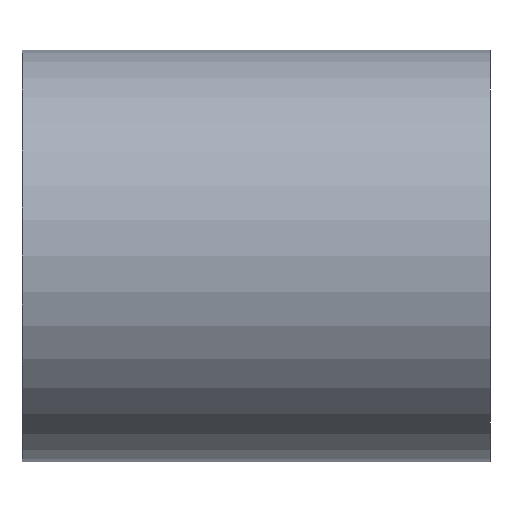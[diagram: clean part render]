
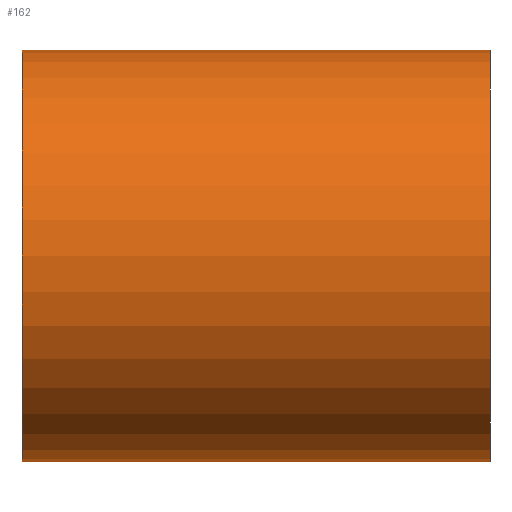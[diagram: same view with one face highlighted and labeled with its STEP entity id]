
A CAD part, front view. The second image highlights one B-rep face of the part: STEP entity #162.
In plain terms, the highlighted cylindrical face has radius 330 mm (diameter 660 mm), a partial arc.
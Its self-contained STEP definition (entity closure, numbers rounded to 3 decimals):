
#162=ADVANCED_FACE('',(#326),#327,.T.);
#326=FACE_OUTER_BOUND('',#509,.T.);
#327=CYLINDRICAL_SURFACE('',#510,330.0);
#509=EDGE_LOOP('',(#927,#928,#929,#930));
#510=AXIS2_PLACEMENT_3D('',#931,#932,#933);
#927=ORIENTED_EDGE('',*,*,#999,.T.);
#928=ORIENTED_EDGE('',*,*,#1173,.F.);
#929=ORIENTED_EDGE('',*,*,#1001,.T.);
#930=ORIENTED_EDGE('',*,*,#1174,.F.);
#931=CARTESIAN_POINT('',(0.0,0.0,0.0));
#932=DIRECTION('',(1.0,0.0,0.0));
#933=DIRECTION('',(0.0,0.0,-1.0));
#999=EDGE_CURVE('',#1178,#1179,#1180,.T.);
#1001=EDGE_CURVE('',#1183,#1181,#1184,.T.);
#1173=EDGE_CURVE('',#1183,#1179,#1439,.T.);
#1174=EDGE_CURVE('',#1178,#1181,#1440,.T.);
#1178=VERTEX_POINT('',#1444);
#1179=VERTEX_POINT('',#1445);
#1180=LINE('',#1446,#1447);
#1181=VERTEX_POINT('',#1448);
#1183=VERTEX_POINT('',#1450);
#1184=LINE('',#1451,#1452);
#1439=CIRCLE('',#1759,330.0);
#1440=CIRCLE('',#1760,330.0);
#1444=CARTESIAN_POINT('',(-375.0,0.0,-330.0));
#1445=CARTESIAN_POINT('',(375.0,0.0,-330.0));
#1446=CARTESIAN_POINT('',(0.0,0.,-330.0));
#1447=VECTOR('',#1763,1.0);
#1448=CARTESIAN_POINT('',(-375.0,0.,330.0));
#1450=CARTESIAN_POINT('',(375.0,0.,330.0));
#1451=CARTESIAN_POINT('',(0.0,0.,330.0));
#1452=VECTOR('',#1767,1.0);
#1759=AXIS2_PLACEMENT_3D('',#2042,#2043,#2044);
#1760=AXIS2_PLACEMENT_3D('',#2045,#2046,#2047);
#1763=DIRECTION('',(1.0,0.0,0.0));
#1767=DIRECTION('',(-1.0,-0.0,-0.0));
#2042=CARTESIAN_POINT('',(375.0,0.0,0.0));
#2043=DIRECTION('',(1.0,0.0,0.0));
#2044=DIRECTION('',(0.0,0.0,-1.0));
#2045=CARTESIAN_POINT('',(-375.0,0.0,0.0));
#2046=DIRECTION('',(-1.0,0.0,0.0));
#2047=DIRECTION('',(0.0,0.0,-1.0));
